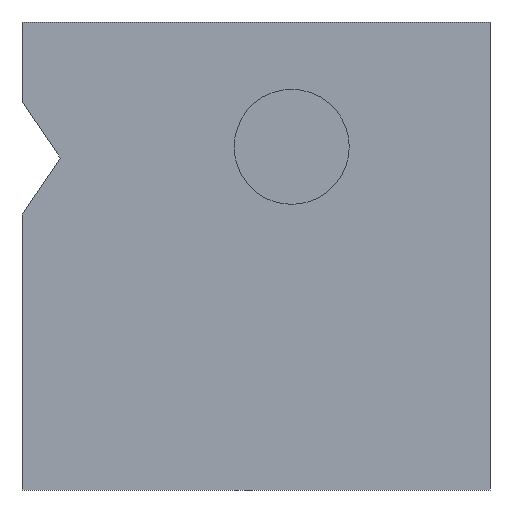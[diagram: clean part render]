
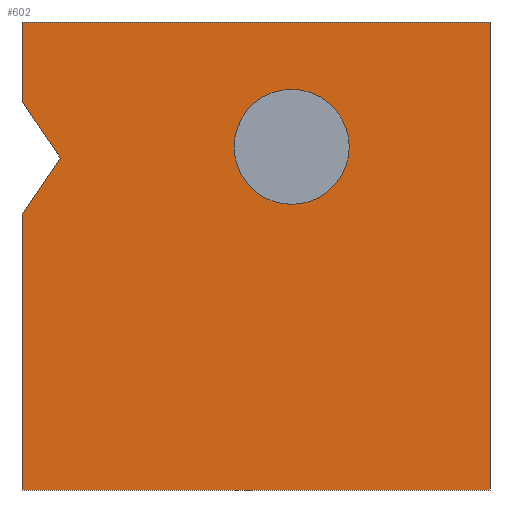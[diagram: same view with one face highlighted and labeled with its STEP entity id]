
A CAD part, front view. The second image highlights one B-rep face of the part: STEP entity #602.
In plain terms, the highlighted planar face has unit normal (0, -1, 0).
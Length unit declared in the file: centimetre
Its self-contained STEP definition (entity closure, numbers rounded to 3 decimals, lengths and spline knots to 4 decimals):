
#2 = AXIS2_PLACEMENT_3D ( 'NONE', #612, #342, #501 ) ;
#12 = VECTOR ( 'NONE', #84, 100. ) ;
#20 = LINE ( 'NONE', #178, #553 ) ;
#26 = VERTEX_POINT ( 'NONE', #275 ) ;
#34 = VECTOR ( 'NONE', #193, 100. ) ;
#48 = EDGE_LOOP ( 'NONE', ( #570, #408, #198, #464, #307, #205, #270 ) ) ;
#57 = VERTEX_POINT ( 'NONE', #219 ) ;
#61 = DIRECTION ( 'NONE',  ( -0.558, 0., 0.83 ) ) ;
#74 = VECTOR ( 'NONE', #593, 100. ) ;
#80 = EDGE_CURVE ( 'NONE', #383, #261, #117, .T. ) ;
#84 = DIRECTION ( 'NONE',  ( 0., 0., -1. ) ) ;
#88 = EDGE_CURVE ( 'NONE', #255, #574, #436, .T. ) ;
#99 = VECTOR ( 'NONE', #129, 100. ) ;
#100 = VERTEX_POINT ( 'NONE', #596 ) ;
#108 = EDGE_CURVE ( 'NONE', #180, #57, #588, .T. ) ;
#111 = CARTESIAN_POINT ( 'NONE',  ( 81.7681, 0., 709.3052 ) ) ;
#115 = DIRECTION ( 'NONE',  ( 0., -1., 0. ) ) ;
#117 = LINE ( 'NONE', #373, #74 ) ;
#129 = DIRECTION ( 'NONE',  ( 0., 0., -1. ) ) ;
#144 = ORIENTED_EDGE ( 'NONE', *, *, #304, .F. ) ;
#151 = CARTESIAN_POINT ( 'NONE',  ( 576.2625, 0., 856.2479 ) ) ;
#155 = CARTESIAN_POINT ( 'NONE',  ( 0., 0., 1000. ) ) ;
#163 = AXIS2_PLACEMENT_3D ( 'NONE', #376, #115, #326 ) ;
#171 = EDGE_CURVE ( 'NONE', #469, #180, #20, .T. ) ;
#173 = LINE ( 'NONE', #384, #590 ) ;
#176 = EDGE_CURVE ( 'NONE', #100, #26, #173, .T. ) ;
#178 = CARTESIAN_POINT ( 'NONE',  ( 0., 0., 587.5755 ) ) ;
#180 = VERTEX_POINT ( 'NONE', #226 ) ;
#193 = DIRECTION ( 'NONE',  ( 0., 0., -1. ) ) ;
#198 = ORIENTED_EDGE ( 'NONE', *, *, #171, .F. ) ;
#203 = DIRECTION ( 'NONE',  ( 0., 0., 1. ) ) ;
#205 = ORIENTED_EDGE ( 'NONE', *, *, #654, .F. ) ;
#208 = PLANE ( 'NONE',  #566 ) ;
#210 = FACE_OUTER_BOUND ( 'NONE', #48, .T. ) ;
#219 = CARTESIAN_POINT ( 'NONE',  ( 0., 0., 831.035 ) ) ;
#226 = CARTESIAN_POINT ( 'NONE',  ( 81.7681, 0., 709.3052 ) ) ;
#237 = CARTESIAN_POINT ( 'NONE',  ( 0., 0., 1000. ) ) ;
#244 = LINE ( 'NONE', #237, #12 ) ;
#255 = VERTEX_POINT ( 'NONE', #547 ) ;
#261 = VERTEX_POINT ( 'NONE', #336 ) ;
#270 = ORIENTED_EDGE ( 'NONE', *, *, #176, .F. ) ;
#275 = CARTESIAN_POINT ( 'NONE',  ( 1000., 0., 1000. ) ) ;
#295 = EDGE_CURVE ( 'NONE', #469, #383, #244, .T. ) ;
#298 = CARTESIAN_POINT ( 'NONE',  ( 0., 0., 587.5755 ) ) ;
#304 = EDGE_CURVE ( 'NONE', #574, #255, #460, .T. ) ;
#307 = ORIENTED_EDGE ( 'NONE', *, *, #80, .T. ) ;
#317 = DIRECTION ( 'NONE',  ( 0., 1., 0. ) ) ;
#326 = DIRECTION ( 'NONE',  ( 0., 0., -1. ) ) ;
#336 = CARTESIAN_POINT ( 'NONE',  ( 1000., 0., 0. ) ) ;
#341 = LINE ( 'NONE', #515, #34 ) ;
#342 = DIRECTION ( 'NONE',  ( 0., -1., 0. ) ) ;
#373 = CARTESIAN_POINT ( 'NONE',  ( 0., 0., 0. ) ) ;
#376 = CARTESIAN_POINT ( 'NONE',  ( 576.2625, 0., 733.2689 ) ) ;
#380 = CARTESIAN_POINT ( 'NONE',  ( 1000., 0., 1000. ) ) ;
#383 = VERTEX_POINT ( 'NONE', #661 ) ;
#384 = CARTESIAN_POINT ( 'NONE',  ( 0., 0., 1000. ) ) ;
#408 = ORIENTED_EDGE ( 'NONE', *, *, #108, .F. ) ;
#416 = EDGE_CURVE ( 'NONE', #100, #57, #341, .T. ) ;
#426 = VECTOR ( 'NONE', #61, 100. ) ;
#436 = CIRCLE ( 'NONE', #163, 122.979 ) ;
#441 = DIRECTION ( 'NONE',  ( 0.558, 0., 0.83 ) ) ;
#460 = CIRCLE ( 'NONE', #2, 122.979 ) ;
#464 = ORIENTED_EDGE ( 'NONE', *, *, #295, .T. ) ;
#469 = VERTEX_POINT ( 'NONE', #298 ) ;
#501 = DIRECTION ( 'NONE',  ( 0., 0., -1. ) ) ;
#514 = ORIENTED_EDGE ( 'NONE', *, *, #88, .F. ) ;
#515 = CARTESIAN_POINT ( 'NONE',  ( 0., 0., 1000. ) ) ;
#534 = FACE_BOUND ( 'NONE', #629, .T. ) ;
#547 = CARTESIAN_POINT ( 'NONE',  ( 576.2625, 0., 610.2899 ) ) ;
#553 = VECTOR ( 'NONE', #441, 100. ) ;
#566 = AXIS2_PLACEMENT_3D ( 'NONE', #155, #317, #203 ) ;
#570 = ORIENTED_EDGE ( 'NONE', *, *, #416, .T. ) ;
#574 = VERTEX_POINT ( 'NONE', #151 ) ;
#588 = LINE ( 'NONE', #111, #426 ) ;
#590 = VECTOR ( 'NONE', #659, 100. ) ;
#593 = DIRECTION ( 'NONE',  ( 1., 0., 0. ) ) ;
#596 = CARTESIAN_POINT ( 'NONE',  ( 0., 0., 1000. ) ) ;
#602 = ADVANCED_FACE ( 'NONE', ( #534, #210 ), #208, .F. ) ;
#612 = CARTESIAN_POINT ( 'NONE',  ( 576.2625, 0., 733.2689 ) ) ;
#629 = EDGE_LOOP ( 'NONE', ( #514, #144 ) ) ;
#654 = EDGE_CURVE ( 'NONE', #26, #261, #662, .T. ) ;
#659 = DIRECTION ( 'NONE',  ( 1., 0., 0. ) ) ;
#661 = CARTESIAN_POINT ( 'NONE',  ( 0., 0., 0. ) ) ;
#662 = LINE ( 'NONE', #380, #99 ) ;
